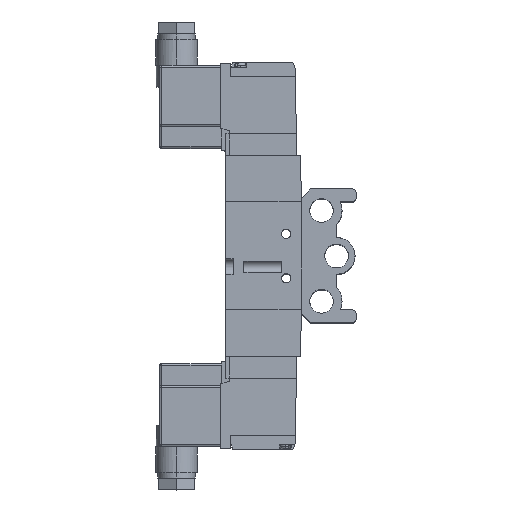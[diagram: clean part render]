
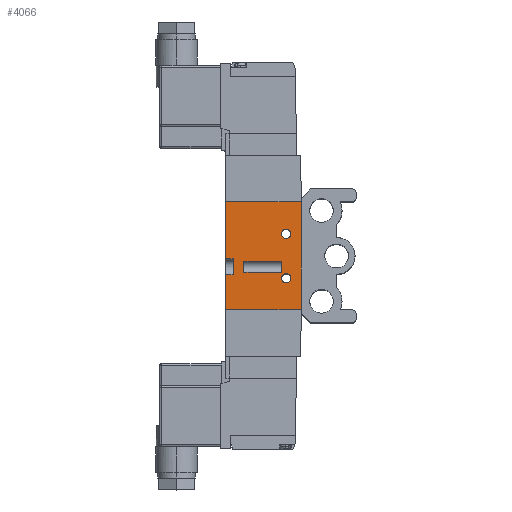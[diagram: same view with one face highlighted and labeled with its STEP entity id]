
A CAD part, top view. The second image highlights one B-rep face of the part: STEP entity #4066.
In plain terms, the highlighted planar face has unit normal (0, 0, 1).
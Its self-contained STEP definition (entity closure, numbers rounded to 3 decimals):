
#762 = LINE ( 'NONE', #29667, #39100 ) ;
#2873 = CIRCLE ( 'NONE', #23581, 2.15 ) ;
#3237 = VERTEX_POINT ( 'NONE', #11548 ) ;
#4066 = ADVANCED_FACE ( 'NONE', ( #51790, #43270, #38116, #29644 ), #58825, .T. ) ;
#4159 = EDGE_LOOP ( 'NONE', ( #21174, #68391 ) ) ;
#4737 = VERTEX_POINT ( 'NONE', #48747 ) ;
#6221 = CARTESIAN_POINT ( 'NONE',  ( -10.25, 7., 13. ) ) ;
#7577 = CARTESIAN_POINT ( 'NONE',  ( 0., 31.5, 13. ) ) ;
#9130 = DIRECTION ( 'NONE',  ( 1., 0., 0. ) ) ;
#9458 = CARTESIAN_POINT ( 'NONE',  ( 12.4, 7., 13. ) ) ;
#9696 = ORIENTED_EDGE ( 'NONE', *, *, #18099, .T. ) ;
#10741 = ORIENTED_EDGE ( 'NONE', *, *, #21227, .T. ) ;
#11548 = CARTESIAN_POINT ( 'NONE',  ( -8.75, 31.5, 13. ) ) ;
#11804 = EDGE_CURVE ( 'NONE', #57658, #13868, #46644, .T. ) ;
#13038 = DIRECTION ( 'NONE',  ( -1., 0., 0. ) ) ;
#13465 = CARTESIAN_POINT ( 'NONE',  ( 25., 17.5, 13. ) ) ;
#13643 = DIRECTION ( 'NONE',  ( 0., 0., -1. ) ) ;
#13868 = VERTEX_POINT ( 'NONE', #24375 ) ;
#14243 = CARTESIAN_POINT ( 'NONE',  ( 8.1, 7., 13. ) ) ;
#14854 = EDGE_CURVE ( 'NONE', #3237, #16525, #50262, .T. ) ;
#15017 = EDGE_CURVE ( 'NONE', #18549, #34315, #70636, .T. ) ;
#15800 = LINE ( 'NONE', #27514, #26834 ) ;
#15898 = VERTEX_POINT ( 'NONE', #23180 ) ;
#16125 = LINE ( 'NONE', #69185, #51916 ) ;
#16525 = VERTEX_POINT ( 'NONE', #22154 ) ;
#17333 = EDGE_CURVE ( 'NONE', #15898, #62211, #34667, .T. ) ;
#18099 = EDGE_CURVE ( 'NONE', #4737, #3237, #39683, .T. ) ;
#18522 = DIRECTION ( 'NONE',  ( -1., 0., 0. ) ) ;
#18549 = VERTEX_POINT ( 'NONE', #43261 ) ;
#19802 = CARTESIAN_POINT ( 'NONE',  ( 25., 0., 13. ) ) ;
#21064 = VECTOR ( 'NONE', #26434, 1000. ) ;
#21174 = ORIENTED_EDGE ( 'NONE', *, *, #65928, .T. ) ;
#21227 = EDGE_CURVE ( 'NONE', #13868, #18549, #762, .T. ) ;
#21258 = VECTOR ( 'NONE', #54946, 1000. ) ;
#21352 = CARTESIAN_POINT ( 'NONE',  ( -1.25, 17.5, 13. ) ) ;
#21511 = VECTOR ( 'NONE', #67240, 1000. ) ;
#21566 = EDGE_CURVE ( 'NONE', #28862, #66654, #39920, .T. ) ;
#21693 = CARTESIAN_POINT ( 'NONE',  ( -2.355, 9., 13. ) ) ;
#22154 = CARTESIAN_POINT ( 'NONE',  ( -8.75, 35., 13. ) ) ;
#23047 = CARTESIAN_POINT ( 'NONE',  ( -8.75, 17.5, 13. ) ) ;
#23180 = CARTESIAN_POINT ( 'NONE',  ( 25., 35., 13. ) ) ;
#23484 = EDGE_LOOP ( 'NONE', ( #32599, #66088, #10741, #44021 ) ) ;
#23517 = DIRECTION ( 'NONE',  ( 1., 0., 0. ) ) ;
#23581 = AXIS2_PLACEMENT_3D ( 'NONE', #68837, #41764, #9130 ) ;
#24375 = CARTESIAN_POINT ( 'NONE',  ( -7.645, 9., 13. ) ) ;
#24430 = ORIENTED_EDGE ( 'NONE', *, *, #63297, .T. ) ;
#24675 = CARTESIAN_POINT ( 'NONE',  ( 0., 35., 13. ) ) ;
#25693 = CARTESIAN_POINT ( 'NONE',  ( -25., 0., 13. ) ) ;
#25923 = DIRECTION ( 'NONE',  ( 0., 0., 1. ) ) ;
#26434 = DIRECTION ( 'NONE',  ( -1., 0., 0. ) ) ;
#26834 = VECTOR ( 'NONE', #33724, 1000. ) ;
#26936 = EDGE_LOOP ( 'NONE', ( #24430, #9696, #36202, #34447, #43260, #36077, #27311, #47040 ) ) ;
#26983 = AXIS2_PLACEMENT_3D ( 'NONE', #25693, #25923, #31440 ) ;
#27311 = ORIENTED_EDGE ( 'NONE', *, *, #66954, .T. ) ;
#27354 = VERTEX_POINT ( 'NONE', #55419 ) ;
#27514 = CARTESIAN_POINT ( 'NONE',  ( -2.355, 17.5, 13. ) ) ;
#27700 = DIRECTION ( 'NONE',  ( 0., 0., -1. ) ) ;
#28279 = AXIS2_PLACEMENT_3D ( 'NONE', #46294, #13643, #51746 ) ;
#28349 = CARTESIAN_POINT ( 'NONE',  ( 0., 0., 13. ) ) ;
#28813 = DIRECTION ( 'NONE',  ( 1., 0., 0. ) ) ;
#28862 = VERTEX_POINT ( 'NONE', #9458 ) ;
#29462 = EDGE_CURVE ( 'NONE', #59135, #57022, #2873, .T. ) ;
#29644 = FACE_BOUND ( 'NONE', #52948, .T. ) ;
#29667 = CARTESIAN_POINT ( 'NONE',  ( -7.645, 17.5, 13. ) ) ;
#30865 = LINE ( 'NONE', #13465, #21511 ) ;
#31440 = DIRECTION ( 'NONE',  ( 1., 0., 0. ) ) ;
#32165 = EDGE_CURVE ( 'NONE', #66654, #28862, #59680, .T. ) ;
#32169 = CARTESIAN_POINT ( 'NONE',  ( 0., 9., 13. ) ) ;
#32414 = CARTESIAN_POINT ( 'NONE',  ( -12.4, 7., 13. ) ) ;
#32599 = ORIENTED_EDGE ( 'NONE', *, *, #49509, .T. ) ;
#33724 = DIRECTION ( 'NONE',  ( 0., -1., 0. ) ) ;
#33731 = DIRECTION ( 'NONE',  ( 0., -1., 0. ) ) ;
#33818 = VECTOR ( 'NONE', #18522, 1000. ) ;
#34075 = DIRECTION ( 'NONE',  ( 1., 0., 0. ) ) ;
#34315 = VERTEX_POINT ( 'NONE', #38626 ) ;
#34447 = ORIENTED_EDGE ( 'NONE', *, *, #43224, .T. ) ;
#34667 = LINE ( 'NONE', #24675, #65309 ) ;
#34683 = DIRECTION ( 'NONE',  ( 0., 1., 0. ) ) ;
#35292 = VECTOR ( 'NONE', #33731, 1000. ) ;
#35501 = LINE ( 'NONE', #40665, #33818 ) ;
#35755 = CARTESIAN_POINT ( 'NONE',  ( -1.25, 35., 13. ) ) ;
#36077 = ORIENTED_EDGE ( 'NONE', *, *, #59173, .T. ) ;
#36202 = ORIENTED_EDGE ( 'NONE', *, *, #14854, .T. ) ;
#38116 = FACE_BOUND ( 'NONE', #4159, .T. ) ;
#38626 = CARTESIAN_POINT ( 'NONE',  ( -2.355, 26.5, 13. ) ) ;
#39100 = VECTOR ( 'NONE', #34683, 1000. ) ;
#39683 = LINE ( 'NONE', #7577, #44821 ) ;
#39920 = CIRCLE ( 'NONE', #48433, 2.15 ) ;
#40665 = CARTESIAN_POINT ( 'NONE',  ( 0., 35., 13. ) ) ;
#41764 = DIRECTION ( 'NONE',  ( 0., 0., -1. ) ) ;
#42602 = DIRECTION ( 'NONE',  ( 0., -1., 0. ) ) ;
#43224 = EDGE_CURVE ( 'NONE', #16525, #27354, #35501, .T. ) ;
#43260 = ORIENTED_EDGE ( 'NONE', *, *, #53067, .T. ) ;
#43261 = CARTESIAN_POINT ( 'NONE',  ( -7.645, 26.5, 13. ) ) ;
#43270 = FACE_BOUND ( 'NONE', #23484, .T. ) ;
#43703 = CARTESIAN_POINT ( 'NONE',  ( 10.25, 7., 13. ) ) ;
#43796 = ORIENTED_EDGE ( 'NONE', *, *, #21566, .T. ) ;
#44021 = ORIENTED_EDGE ( 'NONE', *, *, #15017, .T. ) ;
#44821 = VECTOR ( 'NONE', #13038, 1000. ) ;
#46294 = CARTESIAN_POINT ( 'NONE',  ( 10.25, 7., 13. ) ) ;
#46644 = LINE ( 'NONE', #32169, #21064 ) ;
#47040 = ORIENTED_EDGE ( 'NONE', *, *, #17333, .T. ) ;
#48433 = AXIS2_PLACEMENT_3D ( 'NONE', #43703, #27700, #65545 ) ;
#48747 = CARTESIAN_POINT ( 'NONE',  ( -1.25, 31.5, 13. ) ) ;
#49509 = EDGE_CURVE ( 'NONE', #34315, #57658, #15800, .T. ) ;
#49817 = CIRCLE ( 'NONE', #57103, 2.15 ) ;
#50262 = LINE ( 'NONE', #23047, #21258 ) ;
#50685 = CARTESIAN_POINT ( 'NONE',  ( 0., 26.5, 13. ) ) ;
#51746 = DIRECTION ( 'NONE',  ( 1., 0., 0. ) ) ;
#51790 = FACE_OUTER_BOUND ( 'NONE', #26936, .T. ) ;
#51916 = VECTOR ( 'NONE', #42602, 1000. ) ;
#52948 = EDGE_LOOP ( 'NONE', ( #43796, #55326 ) ) ;
#53067 = EDGE_CURVE ( 'NONE', #27354, #60311, #16125, .T. ) ;
#54946 = DIRECTION ( 'NONE',  ( 0., 1., 0. ) ) ;
#55326 = ORIENTED_EDGE ( 'NONE', *, *, #32165, .T. ) ;
#55419 = CARTESIAN_POINT ( 'NONE',  ( -25., 35., 13. ) ) ;
#57022 = VERTEX_POINT ( 'NONE', #64619 ) ;
#57103 = AXIS2_PLACEMENT_3D ( 'NONE', #6221, #61656, #34075 ) ;
#57658 = VERTEX_POINT ( 'NONE', #21693 ) ;
#58825 = PLANE ( 'NONE',  #26983 ) ;
#59135 = VERTEX_POINT ( 'NONE', #32414 ) ;
#59173 = EDGE_CURVE ( 'NONE', #60311, #67696, #68241, .T. ) ;
#59680 = CIRCLE ( 'NONE', #28279, 2.15 ) ;
#60311 = VERTEX_POINT ( 'NONE', #63894 ) ;
#61656 = DIRECTION ( 'NONE',  ( 0., 0., -1. ) ) ;
#62211 = VERTEX_POINT ( 'NONE', #35755 ) ;
#62747 = DIRECTION ( 'NONE',  ( -1., 0., 0. ) ) ;
#63297 = EDGE_CURVE ( 'NONE', #62211, #4737, #70195, .T. ) ;
#63894 = CARTESIAN_POINT ( 'NONE',  ( -25., 0., 13. ) ) ;
#64619 = CARTESIAN_POINT ( 'NONE',  ( -8.1, 7., 13. ) ) ;
#64851 = VECTOR ( 'NONE', #28813, 1000. ) ;
#65309 = VECTOR ( 'NONE', #62747, 1000. ) ;
#65545 = DIRECTION ( 'NONE',  ( 1., 0., 0. ) ) ;
#65928 = EDGE_CURVE ( 'NONE', #57022, #59135, #49817, .T. ) ;
#66088 = ORIENTED_EDGE ( 'NONE', *, *, #11804, .T. ) ;
#66654 = VERTEX_POINT ( 'NONE', #14243 ) ;
#66954 = EDGE_CURVE ( 'NONE', #67696, #15898, #30865, .T. ) ;
#67240 = DIRECTION ( 'NONE',  ( 0., 1., 0. ) ) ;
#67696 = VERTEX_POINT ( 'NONE', #19802 ) ;
#68241 = LINE ( 'NONE', #28349, #64851 ) ;
#68391 = ORIENTED_EDGE ( 'NONE', *, *, #29462, .T. ) ;
#68837 = CARTESIAN_POINT ( 'NONE',  ( -10.25, 7., 13. ) ) ;
#68901 = VECTOR ( 'NONE', #23517, 1000. ) ;
#69185 = CARTESIAN_POINT ( 'NONE',  ( -25., 17.5, 13. ) ) ;
#70195 = LINE ( 'NONE', #21352, #35292 ) ;
#70636 = LINE ( 'NONE', #50685, #68901 ) ;
